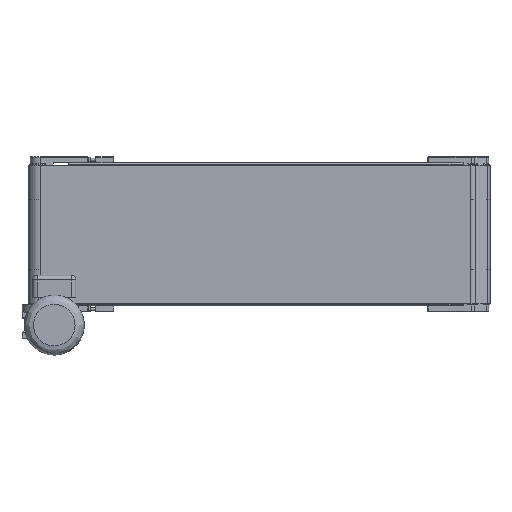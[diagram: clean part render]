
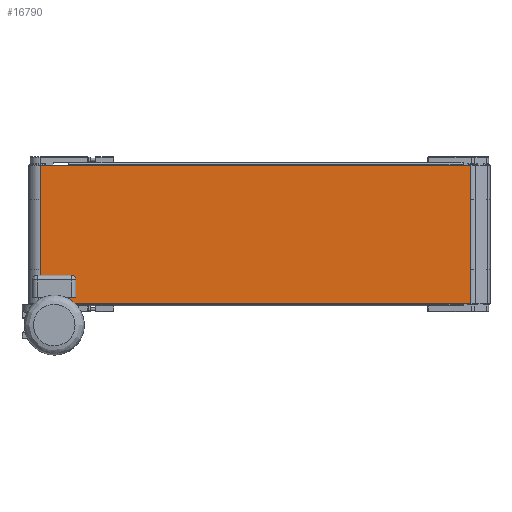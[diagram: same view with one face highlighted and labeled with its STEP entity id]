
A CAD part, top view. The second image highlights one B-rep face of the part: STEP entity #16790.
In plain terms, the highlighted planar face has unit normal (0, 0, 1).
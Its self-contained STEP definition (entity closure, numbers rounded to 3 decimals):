
#230 = EDGE_CURVE ( 'NONE', #32919, #19411, #41899, .T. ) ;
#1857 = VERTEX_POINT ( 'NONE', #38605 ) ;
#2731 = CARTESIAN_POINT ( 'NONE',  ( 25.5, 300., 25.5 ) ) ;
#3004 = PLANE ( 'NONE',  #31258 ) ;
#3246 = CARTESIAN_POINT ( 'NONE',  ( 25.5, 300., 25.5 ) ) ;
#4430 = EDGE_CURVE ( 'NONE', #19411, #1857, #29941, .T. ) ;
#4887 = CARTESIAN_POINT ( 'NONE',  ( 958.731, 300., 25.5 ) ) ;
#6129 = EDGE_CURVE ( 'NONE', #32919, #36615, #9855, .T. ) ;
#6348 = DIRECTION ( 'NONE',  ( 0., -1., 0. ) ) ;
#8325 = DIRECTION ( 'NONE',  ( 1., 0., 0. ) ) ;
#9416 = ORIENTED_EDGE ( 'NONE', *, *, #6129, .F. ) ;
#9855 = LINE ( 'NONE', #2731, #19853 ) ;
#11083 = DIRECTION ( 'NONE',  ( 0., 0., -1. ) ) ;
#11917 = CARTESIAN_POINT ( 'NONE',  ( 25.5, 0., 25.5 ) ) ;
#12777 = CARTESIAN_POINT ( 'NONE',  ( 958.731, 300., 25.5 ) ) ;
#13138 = LINE ( 'NONE', #4887, #33007 ) ;
#16790 = ADVANCED_FACE ( 'NONE', ( #36432 ), #3004, .F. ) ;
#19411 = VERTEX_POINT ( 'NONE', #25420 ) ;
#19853 = VECTOR ( 'NONE', #35451, 1000. ) ;
#25420 = CARTESIAN_POINT ( 'NONE',  ( 25.5, 0., 25.5 ) ) ;
#29109 = DIRECTION ( 'NONE',  ( -1., 0., 0. ) ) ;
#29941 = LINE ( 'NONE', #11917, #45586 ) ;
#30389 = ORIENTED_EDGE ( 'NONE', *, *, #40697, .F. ) ;
#31258 = AXIS2_PLACEMENT_3D ( 'NONE', #3246, #11083, #29109 ) ;
#32095 = ORIENTED_EDGE ( 'NONE', *, *, #230, .T. ) ;
#32919 = VERTEX_POINT ( 'NONE', #33758 ) ;
#33007 = VECTOR ( 'NONE', #33811, 1000. ) ;
#33089 = EDGE_LOOP ( 'NONE', ( #42542, #30389, #9416, #32095 ) ) ;
#33758 = CARTESIAN_POINT ( 'NONE',  ( 25.5, 300., 25.5 ) ) ;
#33811 = DIRECTION ( 'NONE',  ( 0., -1., 0. ) ) ;
#35451 = DIRECTION ( 'NONE',  ( 1., 0., 0. ) ) ;
#36432 = FACE_OUTER_BOUND ( 'NONE', #33089, .T. ) ;
#36615 = VERTEX_POINT ( 'NONE', #12777 ) ;
#38605 = CARTESIAN_POINT ( 'NONE',  ( 958.731, 0., 25.5 ) ) ;
#40697 = EDGE_CURVE ( 'NONE', #36615, #1857, #13138, .T. ) ;
#41899 = LINE ( 'NONE', #45698, #46544 ) ;
#42542 = ORIENTED_EDGE ( 'NONE', *, *, #4430, .T. ) ;
#45586 = VECTOR ( 'NONE', #8325, 1000. ) ;
#45698 = CARTESIAN_POINT ( 'NONE',  ( 25.5, 300., 25.5 ) ) ;
#46544 = VECTOR ( 'NONE', #6348, 1000. ) ;
